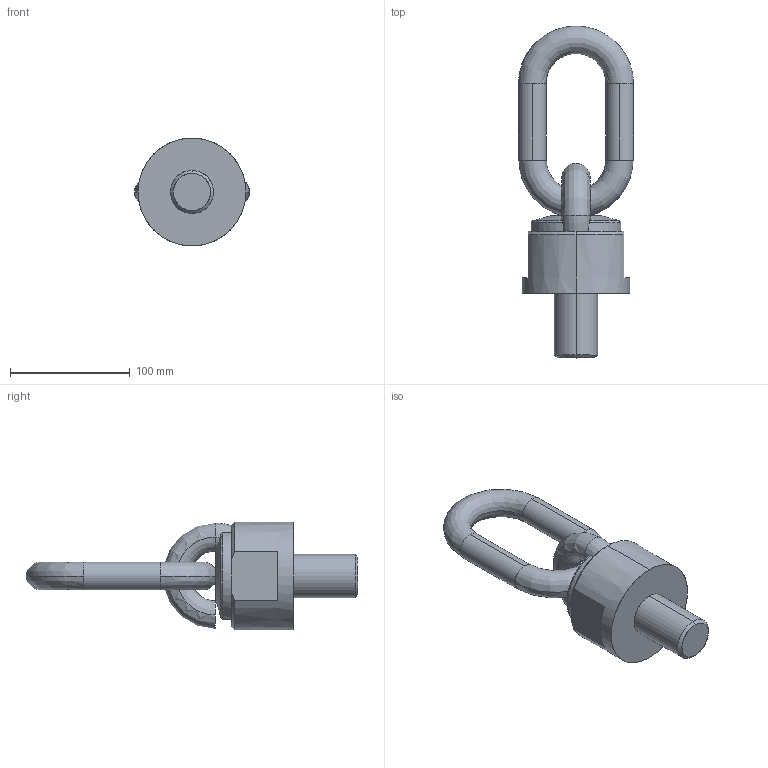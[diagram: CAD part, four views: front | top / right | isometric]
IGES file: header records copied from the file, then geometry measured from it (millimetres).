
Start section: START RECORD GO HERE.
Global section: file name: C800X1003654.igs; native system: DASSAULT SYSTEMES CATIA V5 R20 - www.3ds.com; preprocessor: CATIA Version 5 Release 20 ; author: Utente; organization: NB04-ASUS; date: 20200412.222058; units: millimetre
Bounding box: 96 x 277 x 90 mm (x, y, z)
Surface area: 66941.6 mm2 (no closed solid volume)
Topology: 0 solids, 0 shells, 42 faces, 232 edges, 232 vertices
Faces by surface type: revolution 30, extrusion 12
